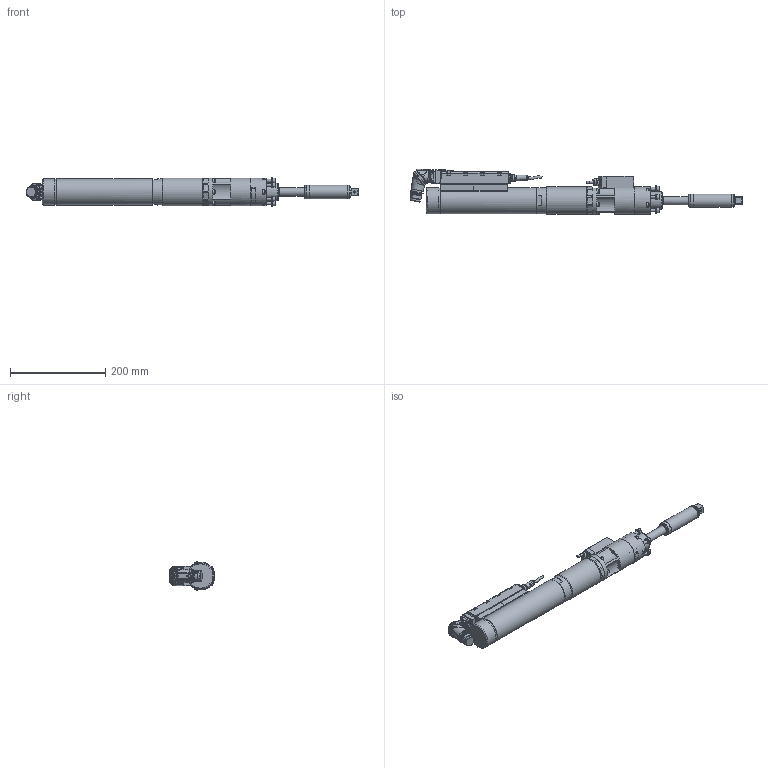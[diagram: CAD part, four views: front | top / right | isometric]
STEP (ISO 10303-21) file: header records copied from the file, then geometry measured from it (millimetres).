
FILE_DESCRIPTION (( 'STEP AP214' ), '1' );
FILE_NAME ('70082446_ESX222DAX270AZX250.STEP', '2016-11-14T10:57:46', ( 'admin' ), ( '' ), 'SwSTEP 2.0', 'SolidWorks 2014', '' );
FILE_SCHEMA (( 'AUTOMOTIVE_DESIGN' ));
Length unit declared in the file: millimetre
Products named in the file (11): 70082306_ESX222_Standard_Winkel; 70082293_2; 70057493_Standard_winkel; 70057493_4; 70057493_3; 70057493_2; 70082306; 70082446_ESX222DAX270AZX250; 7004768_3; 70082371; 70082343
Assembly tree (10 placements, depth 4):
  70082446_ESX222DAX270AZX250
    70082306_ESX222_Standard_Winkel
      70082306
      70057493_Standard_winkel
        70057493_2
        70057493_3
        70057493_4
      70082293_2
    70082343
    70082371
    7004768_3
Bounding box: 698.56 x 95.64 x 59.55 mm (x, y, z)
Volume: 1543607.9 mm3; surface area: 198792.1 mm2
Topology: 12 solids, 13 shells, 2449 faces, 6341 edges, 4108 vertices
Faces by surface type: plane 1211, cylinder 653, bspline 263, cone 251, torus 66, sphere 5
Full cylindrical faces by diameter (mm): 0.5 x7, 0.57 x14, 1.6 x3, 2 x3, 3 x4, 4.2 x11, 4.5 x1, 4.9 x3, 5 x32, 5.5 x12, 6 x6, 8.459 x2, 8.5 x10, 9 x12, 10 x5, 11.08 x1, 12 x5, 12.3 x1, 14 x2, 14.5 x2, 17.3 x1, 17.4 x1, 17.5 x1, 20 x2, 21.15 x1, 21.5 x1, 21.7 x1, 22 x1, 22.3 x1, 24 x1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
Entity records: 86033 total; most frequent: CARTESIAN_POINT 28755, ORIENTED_EDGE 11638, DIRECTION 10320, EDGE_CURVE 5819, VERTEX_POINT 3948, AXIS2_PLACEMENT_3D 3824, EDGE_LOOP 3011, FACE_OUTER_BOUND 2674
